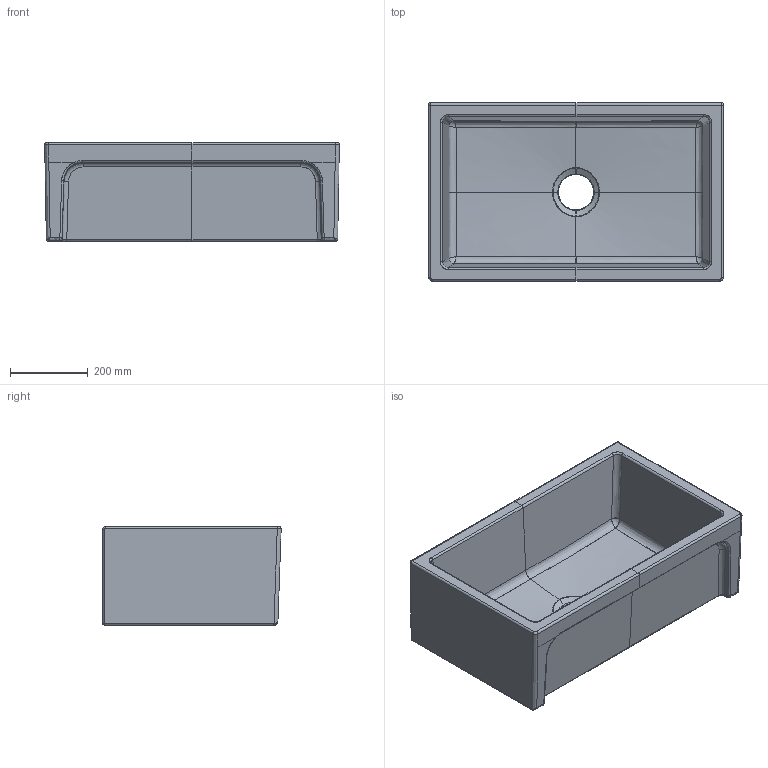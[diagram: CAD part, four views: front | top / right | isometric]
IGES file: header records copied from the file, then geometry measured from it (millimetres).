
Start section: START RECORD GO HERE.
Global section: file name: 5117_3D.igs; native system: DASSAULT SYSTEMES CATIA V5 R19 - www.3ds.com; preprocessor: CATIA Version 5 Release 19 SP 5 ; author: gioge; organization: LAPTOP-G94B6G74; date: 20201024.100122; units: millimetre
Bounding box: 759.82 x 459.82 x 254 mm (x, y, z)
Surface area: 1788586.9 mm2 (no closed solid volume)
Topology: 0 solids, 0 shells, 334 faces, 1508 edges, 1464 vertices
Faces by surface type: bspline 196, revolution 116, plane 22
